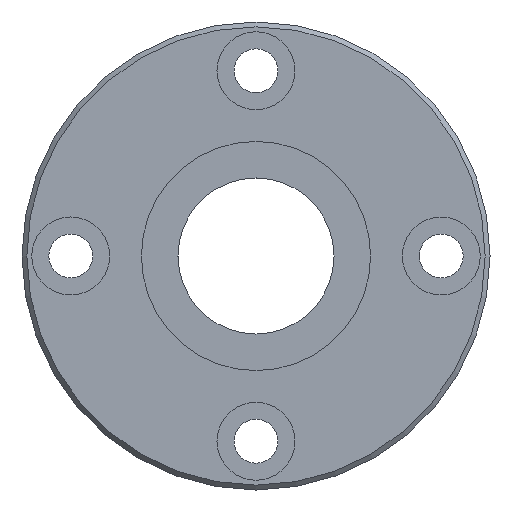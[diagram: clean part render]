
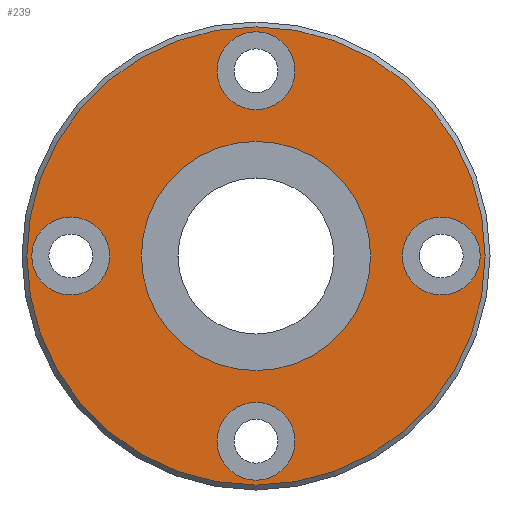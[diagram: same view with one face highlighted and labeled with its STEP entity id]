
A CAD part, left-side view. The second image highlights one B-rep face of the part: STEP entity #239.
In plain terms, the highlighted planar face has unit normal (-1, 0, 0).
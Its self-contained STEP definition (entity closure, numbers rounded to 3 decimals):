
#164=CARTESIAN_POINT('',(0.,0.,23.5));
#165=VERTEX_POINT('',#164);
#166=CARTESIAN_POINT('',(0.,0.0,0.0));
#167=DIRECTION('',(1.0,0.0,0.0));
#168=DIRECTION('',(0.0,0.0,-1.0));
#169=AXIS2_PLACEMENT_3D('',#166,#167,#168);
#170=CIRCLE('',#169,23.5);
#171=EDGE_CURVE('',#165,#165,#170,.T.);
#176=CARTESIAN_POINT('',(0.,0.0,12.875));
#177=DIRECTION('',(-1.0,0.0,0.0));
#178=DIRECTION('',(0.0,0.0,1.0));
#179=AXIS2_PLACEMENT_3D('',#176,#177,#178);
#180=PLANE('',#179);
#181=ORIENTED_EDGE('',*,*,#171,.F.);
#182=EDGE_LOOP('',(#181));
#183=FACE_OUTER_BOUND('',#182,.T.);
#184=CARTESIAN_POINT('',(0.,0.0,11.75));
#185=VERTEX_POINT('',#184);
#186=CARTESIAN_POINT('',(0.,0.0,0.0));
#187=DIRECTION('',(-1.0,0.0,0.0));
#188=DIRECTION('',(0.0,0.0,1.0));
#189=AXIS2_PLACEMENT_3D('',#186,#187,#188);
#190=CIRCLE('',#189,11.75);
#191=EDGE_CURVE('',#185,#185,#190,.T.);
#192=ORIENTED_EDGE('',*,*,#191,.F.);
#193=EDGE_LOOP('',(#192));
#194=FACE_BOUND('',#193,.T.);
#195=CARTESIAN_POINT('',(0.0,23.,0.));
#196=VERTEX_POINT('',#195);
#197=CARTESIAN_POINT('',(0.,19.0,0.));
#198=DIRECTION('',(1.0,0.0,0.0));
#199=DIRECTION('',(0.0,1.0,0.0));
#200=AXIS2_PLACEMENT_3D('',#197,#198,#199);
#201=CIRCLE('',#200,4.0);
#202=EDGE_CURVE('',#196,#196,#201,.T.);
#203=ORIENTED_EDGE('',*,*,#202,.T.);
#204=EDGE_LOOP('',(#203));
#205=FACE_BOUND('',#204,.T.);
#206=CARTESIAN_POINT('',(0.0,-15.0,0.));
#207=VERTEX_POINT('',#206);
#208=CARTESIAN_POINT('',(0.,-19.0,0.));
#209=DIRECTION('',(1.0,0.0,0.0));
#210=DIRECTION('',(0.0,1.0,0.0));
#211=AXIS2_PLACEMENT_3D('',#208,#209,#210);
#212=CIRCLE('',#211,4.0);
#213=EDGE_CURVE('',#207,#207,#212,.T.);
#214=ORIENTED_EDGE('',*,*,#213,.T.);
#215=EDGE_LOOP('',(#214));
#216=FACE_BOUND('',#215,.T.);
#217=CARTESIAN_POINT('',(0.0,4.,19.0));
#218=VERTEX_POINT('',#217);
#219=CARTESIAN_POINT('',(0.,0.,19.0));
#220=DIRECTION('',(1.0,0.0,0.0));
#221=DIRECTION('',(0.0,1.0,0.0));
#222=AXIS2_PLACEMENT_3D('',#219,#220,#221);
#223=CIRCLE('',#222,4.0);
#224=EDGE_CURVE('',#218,#218,#223,.T.);
#225=ORIENTED_EDGE('',*,*,#224,.T.);
#226=EDGE_LOOP('',(#225));
#227=FACE_BOUND('',#226,.T.);
#228=CARTESIAN_POINT('',(0.0,4.,-19.0));
#229=VERTEX_POINT('',#228);
#230=CARTESIAN_POINT('',(0.,0.,-19.0));
#231=DIRECTION('',(1.0,0.0,0.0));
#232=DIRECTION('',(0.0,1.0,0.0));
#233=AXIS2_PLACEMENT_3D('',#230,#231,#232);
#234=CIRCLE('',#233,4.0);
#235=EDGE_CURVE('',#229,#229,#234,.T.);
#236=ORIENTED_EDGE('',*,*,#235,.T.);
#237=EDGE_LOOP('',(#236));
#238=FACE_BOUND('',#237,.T.);
#239=ADVANCED_FACE('',(#183,#194,#205,#216,#227,#238),#180,.T.);
